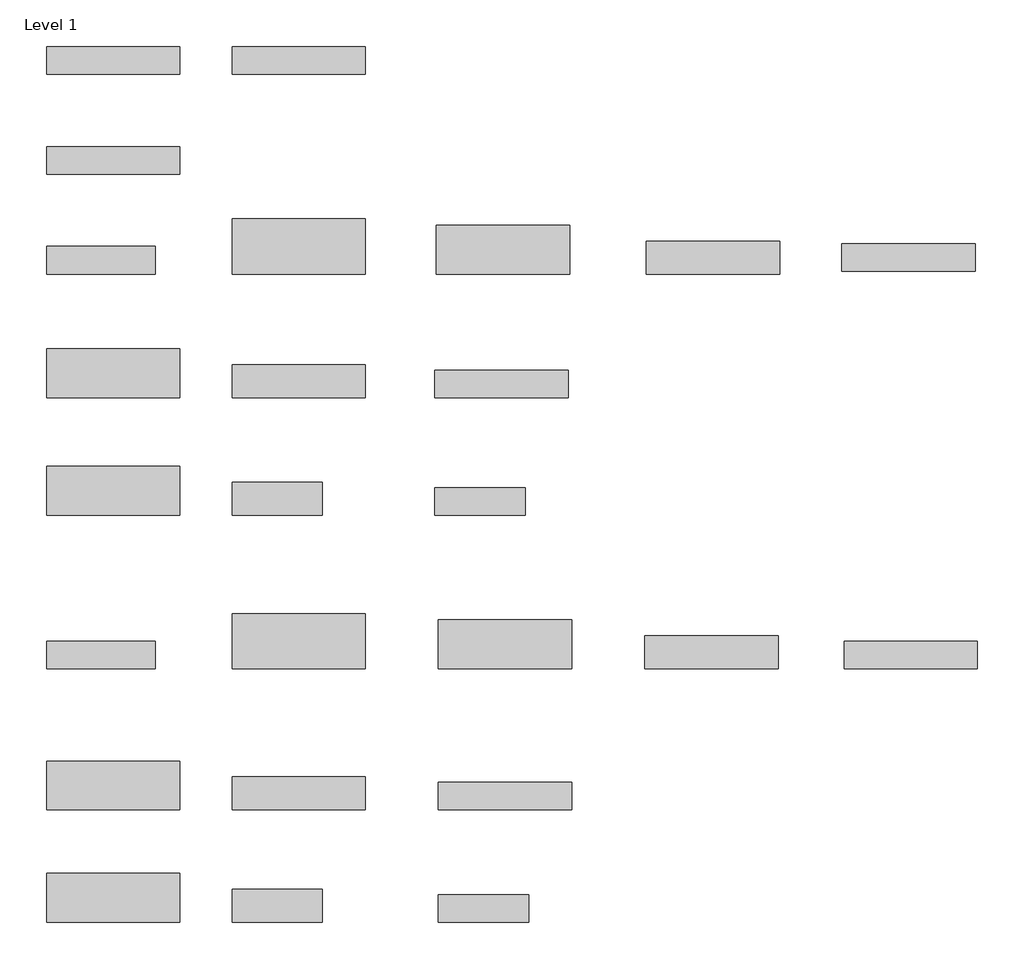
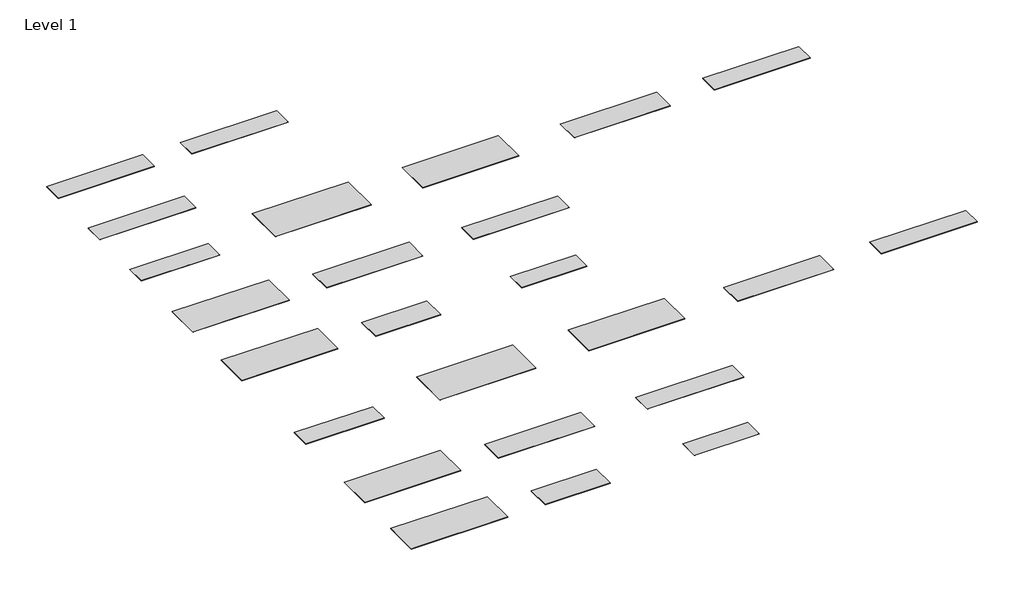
# One storey: 25 proxies.
"""IFC4 building model written with IfcOpenShell, lengths in millimetres."""

from ifc_helpers import new_model, si_unit, origin, place, context, project, spatial, transform, mapped, element, save
from components import g554_urban_concrete_12mm_760x3680mm_7f56e2ab, g554_urban_concrete_12mm_1350x3680mm_c2ce3097, g554_urban_concrete_12mm_1520x3680mm_bc4f7f2a, g554_urban_concrete_12mm_910x3680mm_ebb0e17e, g554_urban_concrete_20mm_760x3000mm_a6e596b7, g554_urban_concrete_6mm_760x2490mm_c0a7b58a, g554_urban_concrete_6mm_910x2490mm_29e5721c

model = new_model("IFC4")

# Units and contexts
model_context = context("Model", 3, world=origin())
ifc_project = project(units=[si_unit("LENGTHUNIT", "METRE", prefix="MILLI")], contexts=[model_context])

# Site, building, storey
site = spatial("IfcSite", under=ifc_project)
building = spatial("IfcBuilding", under=site)
storey = spatial("IfcBuildingStorey", under=building, Name="Level 1", Elevation=0.0)

# Proxies
placement = place(None, origin())
g554_urban_concrete_12mm_760x3680mm_shape = g554_urban_concrete_12mm_760x3680mm_7f56e2ab(model_context)
element("IfcBuildingElementProxy", 1, Name="Kitchen_Counter-Tops_Indoor-Material_HI-MACS_Concrete : M551_Chic-Concrete_12mm_760x3680mm", ObjectType="Kitchen_Counter-Tops_Indoor-Material_HI-MACS_Concrete : M551_Chic-Concrete_12mm_760x3680mm", at=placement, inside=storey, context=model_context, shape_type="MappedRepresentation", body=[
    mapped(g554_urban_concrete_12mm_760x3680mm_shape, transform((-22854.2438152, 5427.7143356, 0.0), x_axis=(1.0, 0.0, 0.0), y_axis=(0.0, 1.0, 0.0), z_axis=(0.0, 0.0, 1.0))),
])
g554_urban_concrete_12mm_1350x3680mm_shape = g554_urban_concrete_12mm_1350x3680mm_c2ce3097(model_context)
element("IfcBuildingElementProxy", 2, Name="Kitchen_Counter-Tops_Indoor-Material_HI-MACS_Concrete : G554_Urban-Concrete_12mm_1350x3680mm", ObjectType="Kitchen_Counter-Tops_Indoor-Material_HI-MACS_Concrete : G554_Urban-Concrete_12mm_1350x3680mm", at=placement, inside=storey, context=model_context, shape_type="MappedRepresentation", body=[
    mapped(g554_urban_concrete_12mm_1350x3680mm_shape, transform((-12034.0280057, -10697.4793523, 0.0), x_axis=(1.0, 0.0, 0.0), y_axis=(0.0, 1.0, 0.0), z_axis=(0.0, 0.0, 1.0))),
])
g554_urban_concrete_12mm_1520x3680mm_shape = g554_urban_concrete_12mm_1520x3680mm_bc4f7f2a(model_context)
element("IfcBuildingElementProxy", 3, Name="Kitchen_Counter-Tops_Indoor-Material_HI-MACS_Concrete : G554_Urban-Concrete_12mm_1520x3680mm", ObjectType="Kitchen_Counter-Tops_Indoor-Material_HI-MACS_Concrete : G554_Urban-Concrete_12mm_1520x3680mm", at=placement, inside=storey, context=model_context, shape_type="MappedRepresentation", body=[
    mapped(g554_urban_concrete_12mm_1520x3680mm_shape, transform((-17734.0280057, -10612.4793523, 0.0), x_axis=(1.0, 0.0, 0.0), y_axis=(0.0, 1.0, 0.0), z_axis=(0.0, 0.0, 1.0))),
])
element("IfcBuildingElementProxy", 4, Name="Kitchen_Counter-Tops_Indoor-Material_HI-MACS_Concrete : G554_Urban-Concrete_12mm_760x3680mm", ObjectType="Kitchen_Counter-Tops_Indoor-Material_HI-MACS_Concrete : G554_Urban-Concrete_12mm_760x3680mm", at=placement, inside=storey, context=model_context, shape_type="MappedRepresentation", body=[
    mapped(g554_urban_concrete_12mm_760x3680mm_shape, transform((-834.0280057, -10992.4793523, 0.0), x_axis=(1.0, 0.0, 0.0), y_axis=(0.0, 1.0, 0.0), z_axis=(0.0, 0.0, 1.0))),
])
g554_urban_concrete_12mm_910x3680mm_shape = g554_urban_concrete_12mm_910x3680mm_ebb0e17e(model_context)
element("IfcBuildingElementProxy", 5, Name="Kitchen_Counter-Tops_Indoor-Material_HI-MACS_Concrete : G554_Urban-Concrete_12mm_910x3680mm", ObjectType="Kitchen_Counter-Tops_Indoor-Material_HI-MACS_Concrete : G554_Urban-Concrete_12mm_910x3680mm", at=placement, inside=storey, context=model_context, shape_type="MappedRepresentation", body=[
    mapped(g554_urban_concrete_12mm_910x3680mm_shape, transform((-6334.0280057, -10917.4793523, 0.0), x_axis=(1.0, 0.0, 0.0), y_axis=(0.0, 1.0, 0.0), z_axis=(0.0, 0.0, 1.0))),
])
g554_urban_concrete_20mm_760x3000mm_shape = g554_urban_concrete_20mm_760x3000mm_a6e596b7(model_context)
element("IfcBuildingElementProxy", 6, Name="Kitchen_Counter-Tops_Indoor-Material_HI-MACS_Concrete : G554_Urban-Concrete_20mm_760x3000mm", ObjectType="Kitchen_Counter-Tops_Indoor-Material_HI-MACS_Concrete : G554_Urban-Concrete_20mm_760x3000mm", at=placement, inside=storey, context=model_context, shape_type="MappedRepresentation", body=[
    mapped(g554_urban_concrete_20mm_760x3000mm_shape, transform((-23194.2438152, -10992.4793523, 0.0), x_axis=(1.0, 0.0, 0.0), y_axis=(0.0, 1.0, 0.0), z_axis=(0.0, 0.0, 1.0))),
])
element("IfcBuildingElementProxy", 7, Name="Kitchen_Counter-Tops_Indoor-Material_HI-MACS_Concrete : G554_Urban-Concrete_6mm_1350x3680mm", ObjectType="Kitchen_Counter-Tops_Indoor-Material_HI-MACS_Concrete : G554_Urban-Concrete_6mm_1350x3680mm", at=placement, inside=storey, context=model_context, shape_type="MappedRepresentation", body=[
    mapped(g554_urban_concrete_12mm_1350x3680mm_shape, transform((-22854.2438152, -17692.4793523, 0.0), x_axis=(1.0, 0.0, 0.0), y_axis=(0.0, 1.0, 0.0), z_axis=(0.0, 0.0, 1.0))),
])
g554_urban_concrete_6mm_760x2490mm_shape = g554_urban_concrete_6mm_760x2490mm_c0a7b58a(model_context)
element("IfcBuildingElementProxy", 8, Name="Kitchen_Counter-Tops_Indoor-Material_HI-MACS_Concrete : G554_Urban-Concrete_6mm_760x2490mm", ObjectType="Kitchen_Counter-Tops_Indoor-Material_HI-MACS_Concrete : G554_Urban-Concrete_6mm_760x2490mm", at=placement, inside=storey, context=model_context, shape_type="MappedRepresentation", body=[
    mapped(g554_urban_concrete_6mm_760x2490mm_shape, transform((-12629.0280057, -17987.4793523, 0.0), x_axis=(1.0, 0.0, 0.0), y_axis=(0.0, 1.0, 0.0), z_axis=(0.0, 0.0, 1.0))),
])
g554_urban_concrete_6mm_910x2490mm_shape = g554_urban_concrete_6mm_910x2490mm_29e5721c(model_context)
element("IfcBuildingElementProxy", 9, Name="Kitchen_Counter-Tops_Indoor-Material_HI-MACS_Concrete : G554_Urban-Concrete_6mm_910x2490mm", ObjectType="Kitchen_Counter-Tops_Indoor-Material_HI-MACS_Concrete : G554_Urban-Concrete_6mm_910x2490mm", at=placement, inside=storey, context=model_context, shape_type="MappedRepresentation", body=[
    mapped(g554_urban_concrete_6mm_910x2490mm_shape, transform((-18329.0280057, -17912.4793523, 0.0), x_axis=(1.0, 0.0, 0.0), y_axis=(0.0, 1.0, 0.0), z_axis=(0.0, 0.0, 1.0))),
])
element("IfcBuildingElementProxy", 10, Name="Kitchen_Counter-Tops_Indoor-Material_HI-MACS_Concrete : G554_Urban-Concrete_9mm_1350x3680mm", ObjectType="Kitchen_Counter-Tops_Indoor-Material_HI-MACS_Concrete : G554_Urban-Concrete_9mm_1350x3680mm", at=placement, inside=storey, context=model_context, shape_type="MappedRepresentation", body=[
    mapped(g554_urban_concrete_12mm_1350x3680mm_shape, transform((-22854.2438152, -14592.4793523, 0.0), x_axis=(1.0, 0.0, 0.0), y_axis=(0.0, 1.0, 0.0), z_axis=(0.0, 0.0, 1.0))),
])
element("IfcBuildingElementProxy", 11, Name="Kitchen_Counter-Tops_Indoor-Material_HI-MACS_Concrete : G554_Urban-Concrete_9mm_760x3680mm", ObjectType="Kitchen_Counter-Tops_Indoor-Material_HI-MACS_Concrete : G554_Urban-Concrete_9mm_760x3680mm", at=placement, inside=storey, context=model_context, shape_type="MappedRepresentation", body=[
    mapped(g554_urban_concrete_12mm_760x3680mm_shape, transform((-12034.0280057, -14887.4793523, 0.0), x_axis=(1.0, 0.0, 0.0), y_axis=(0.0, 1.0, 0.0), z_axis=(0.0, 0.0, 1.0))),
])
element("IfcBuildingElementProxy", 12, Name="Kitchen_Counter-Tops_Indoor-Material_HI-MACS_Concrete : G554_Urban-Concrete_9mm_910x3680mm", ObjectType="Kitchen_Counter-Tops_Indoor-Material_HI-MACS_Concrete : G554_Urban-Concrete_9mm_910x3680mm", at=placement, inside=storey, context=model_context, shape_type="MappedRepresentation", body=[
    mapped(g554_urban_concrete_12mm_910x3680mm_shape, transform((-17734.0280057, -14812.4793523, 0.0), x_axis=(1.0, 0.0, 0.0), y_axis=(0.0, 1.0, 0.0), z_axis=(0.0, 0.0, 1.0))),
])
element("IfcBuildingElementProxy", 13, Name="Kitchen_Counter-Tops_Indoor-Material_HI-MACS_Concrete : G555_Steel-Concrete_12mm_1350x3680mm", ObjectType="Kitchen_Counter-Tops_Indoor-Material_HI-MACS_Concrete : G555_Steel-Concrete_12mm_1350x3680mm", at=placement, inside=storey, context=model_context, shape_type="MappedRepresentation", body=[
    mapped(g554_urban_concrete_12mm_1350x3680mm_shape, transform((-12094.0280057, 202.5206477, 0.0), x_axis=(1.0, 0.0, 0.0), y_axis=(0.0, 1.0, 0.0), z_axis=(0.0, 0.0, 1.0))),
])
element("IfcBuildingElementProxy", 14, Name="Kitchen_Counter-Tops_Indoor-Material_HI-MACS_Concrete : G555_Steel-Concrete_12mm_1520x3680mm", ObjectType="Kitchen_Counter-Tops_Indoor-Material_HI-MACS_Concrete : G555_Steel-Concrete_12mm_1520x3680mm", at=placement, inside=storey, context=model_context, shape_type="MappedRepresentation", body=[
    mapped(g554_urban_concrete_12mm_1520x3680mm_shape, transform((-17734.0280057, 287.5206477, 0.0), x_axis=(1.0, 0.0, 0.0), y_axis=(0.0, 1.0, 0.0), z_axis=(0.0, 0.0, 1.0))),
])
element("IfcBuildingElementProxy", 15, Name="Kitchen_Counter-Tops_Indoor-Material_HI-MACS_Concrete : G555_Steel-Concrete_12mm_760x3680mm", ObjectType="Kitchen_Counter-Tops_Indoor-Material_HI-MACS_Concrete : G555_Steel-Concrete_12mm_760x3680mm", at=placement, inside=storey, context=model_context, shape_type="MappedRepresentation", body=[
    mapped(g554_urban_concrete_12mm_760x3680mm_shape, transform((-894.0280057, -17.4793523, 0.0), x_axis=(1.0, 0.0, 0.0), y_axis=(0.0, 1.0, 0.0), z_axis=(0.0, 0.0, 1.0))),
])
element("IfcBuildingElementProxy", 16, Name="Kitchen_Counter-Tops_Indoor-Material_HI-MACS_Concrete : G555_Steel-Concrete_12mm_910x3680mm", ObjectType="Kitchen_Counter-Tops_Indoor-Material_HI-MACS_Concrete : G555_Steel-Concrete_12mm_910x3680mm", at=placement, inside=storey, context=model_context, shape_type="MappedRepresentation", body=[
    mapped(g554_urban_concrete_12mm_910x3680mm_shape, transform((-6294.0280057, -17.4793523, 0.0), x_axis=(1.0, 0.0, 0.0), y_axis=(0.0, 1.0, 0.0), z_axis=(0.0, 0.0, 1.0))),
])
element("IfcBuildingElementProxy", 17, Name="Kitchen_Counter-Tops_Indoor-Material_HI-MACS_Concrete : G555_Steel-Concrete_20mm_760x3000mm", ObjectType="Kitchen_Counter-Tops_Indoor-Material_HI-MACS_Concrete : G555_Steel-Concrete_20mm_760x3000mm", at=placement, inside=storey, context=model_context, shape_type="MappedRepresentation", body=[
    mapped(g554_urban_concrete_20mm_760x3000mm_shape, transform((-23194.2438152, -92.4793523, 0.0), x_axis=(1.0, 0.0, 0.0), y_axis=(0.0, 1.0, 0.0), z_axis=(0.0, 0.0, 1.0))),
])
element("IfcBuildingElementProxy", 18, Name="Kitchen_Counter-Tops_Indoor-Material_HI-MACS_Concrete : G555_Steel-Concrete_6mm_1350x3680mm", ObjectType="Kitchen_Counter-Tops_Indoor-Material_HI-MACS_Concrete : G555_Steel-Concrete_6mm_1350x3680mm", at=placement, inside=storey, context=model_context, shape_type="MappedRepresentation", body=[
    mapped(g554_urban_concrete_12mm_1350x3680mm_shape, transform((-22854.2438152, -6452.4793523, 0.0), x_axis=(1.0, 0.0, 0.0), y_axis=(0.0, 1.0, 0.0), z_axis=(0.0, 0.0, 1.0))),
])
element("IfcBuildingElementProxy", 19, Name="Kitchen_Counter-Tops_Indoor-Material_HI-MACS_Concrete : G555_Steel-Concrete_6mm_760x2490mm", ObjectType="Kitchen_Counter-Tops_Indoor-Material_HI-MACS_Concrete : G555_Steel-Concrete_6mm_760x2490mm", at=placement, inside=storey, context=model_context, shape_type="MappedRepresentation", body=[
    mapped(g554_urban_concrete_6mm_760x2490mm_shape, transform((-12729.0280057, -6747.4793523, 0.0), x_axis=(1.0, 0.0, 0.0), y_axis=(0.0, 1.0, 0.0), z_axis=(0.0, 0.0, 1.0))),
])
element("IfcBuildingElementProxy", 20, Name="Kitchen_Counter-Tops_Indoor-Material_HI-MACS_Concrete : G555_Steel-Concrete_6mm_910x2490mm", ObjectType="Kitchen_Counter-Tops_Indoor-Material_HI-MACS_Concrete : G555_Steel-Concrete_6mm_910x2490mm", at=placement, inside=storey, context=model_context, shape_type="MappedRepresentation", body=[
    mapped(g554_urban_concrete_6mm_910x2490mm_shape, transform((-18329.0280057, -6672.4793523, 0.0), x_axis=(1.0, 0.0, 0.0), y_axis=(0.0, 1.0, 0.0), z_axis=(0.0, 0.0, 1.0))),
])
element("IfcBuildingElementProxy", 21, Name="Kitchen_Counter-Tops_Indoor-Material_HI-MACS_Concrete : G555_Steel-Concrete_9mm_1350x3680mm", ObjectType="Kitchen_Counter-Tops_Indoor-Material_HI-MACS_Concrete : G555_Steel-Concrete_9mm_1350x3680mm", at=placement, inside=storey, context=model_context, shape_type="MappedRepresentation", body=[
    mapped(g554_urban_concrete_12mm_1350x3680mm_shape, transform((-22854.2438152, -3212.4793523, 0.0), x_axis=(1.0, 0.0, 0.0), y_axis=(0.0, 1.0, 0.0), z_axis=(0.0, 0.0, 1.0))),
])
element("IfcBuildingElementProxy", 22, Name="Kitchen_Counter-Tops_Indoor-Material_HI-MACS_Concrete : G555_Steel-Concrete_9mm_760x3680mm", ObjectType="Kitchen_Counter-Tops_Indoor-Material_HI-MACS_Concrete : G555_Steel-Concrete_9mm_760x3680mm", at=placement, inside=storey, context=model_context, shape_type="MappedRepresentation", body=[
    mapped(g554_urban_concrete_12mm_760x3680mm_shape, transform((-12134.0280057, -3507.4793523, 0.0), x_axis=(1.0, 0.0, 0.0), y_axis=(0.0, 1.0, 0.0), z_axis=(0.0, 0.0, 1.0))),
])
element("IfcBuildingElementProxy", 23, Name="Kitchen_Counter-Tops_Indoor-Material_HI-MACS_Concrete : G555_Steel-Concrete_9mm_910x3680mm", ObjectType="Kitchen_Counter-Tops_Indoor-Material_HI-MACS_Concrete : G555_Steel-Concrete_9mm_910x3680mm", at=placement, inside=storey, context=model_context, shape_type="MappedRepresentation", body=[
    mapped(g554_urban_concrete_12mm_910x3680mm_shape, transform((-17734.0280057, -3432.4793523, 0.0), x_axis=(1.0, 0.0, 0.0), y_axis=(0.0, 1.0, 0.0), z_axis=(0.0, 0.0, 1.0))),
])
element("IfcBuildingElementProxy", 24, Name="Kitchen_Counter-Tops_Indoor-Material_HI-MACS_Concrete : M552_Shadow-Concrete_12mm_760x3680mm", ObjectType="Kitchen_Counter-Tops_Indoor-Material_HI-MACS_Concrete : M552_Shadow-Concrete_12mm_760x3680mm", at=placement, inside=storey, context=model_context, shape_type="MappedRepresentation", body=[
    mapped(g554_urban_concrete_12mm_760x3680mm_shape, transform((-17734.0280057, 5427.7143356, 0.0), x_axis=(1.0, 0.0, 0.0), y_axis=(0.0, 1.0, 0.0), z_axis=(0.0, 0.0, 1.0))),
])
element("IfcBuildingElementProxy", 25, Name="Kitchen_Counter-Tops_Indoor-Material_HI-MACS_Concrete : M553_Ebony-Concrete_12mm_760x3680mm", ObjectType="Kitchen_Counter-Tops_Indoor-Material_HI-MACS_Concrete : M553_Ebony-Concrete_12mm_760x3680mm", at=placement, inside=storey, context=model_context, shape_type="MappedRepresentation", body=[
    mapped(g554_urban_concrete_12mm_760x3680mm_shape, transform((-22854.2438152, 2667.6174917, 0.0), x_axis=(1.0, 0.0, 0.0), y_axis=(0.0, 1.0, 0.0), z_axis=(0.0, 0.0, 1.0))),
])

save(model, "model.ifc")
